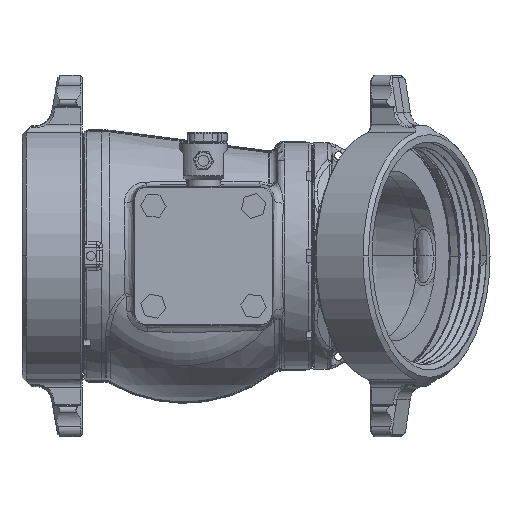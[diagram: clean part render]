
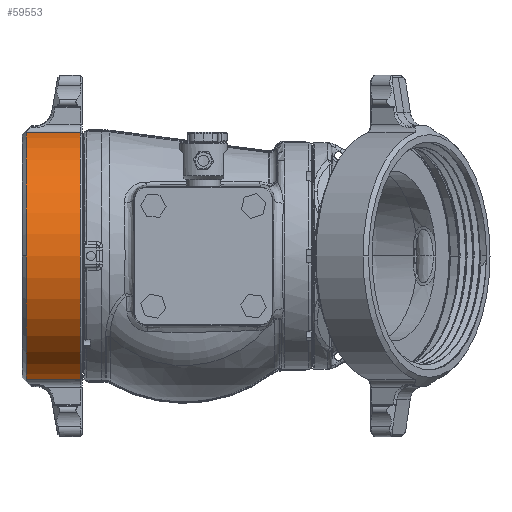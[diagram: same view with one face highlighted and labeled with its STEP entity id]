
A CAD part, front view. The second image highlights one B-rep face of the part: STEP entity #59553.
In plain terms, the highlighted cylindrical face has radius 98.425 mm (diameter 196.85 mm), a partial arc.
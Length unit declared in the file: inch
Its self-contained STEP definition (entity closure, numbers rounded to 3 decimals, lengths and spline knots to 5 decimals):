
#10630 = CARTESIAN_POINT ( 'NONE',  ( -4.21165, -1.13098, -3.81329 ) ) ;
#10631 = CARTESIAN_POINT ( 'NONE',  ( -4.21165, -1.13098, 3.81329 ) ) ;
#10632 = CARTESIAN_POINT ( 'NONE',  ( -5.88715, -1.13098, -3.81329 ) ) ;
#10783 = CARTESIAN_POINT ( 'NONE',  ( -5.88715, -1.13098, 3.81329 ) ) ;
#10784 = CARTESIAN_POINT ( 'NONE',  ( -5.88715, -4.31719, 0. ) ) ;
#16836 = EDGE_CURVE ( 'NONE', #25088, #25087, #42514, .T. ) ;
#19959 = AXIS2_PLACEMENT_3D ( 'NONE', #43791, #43792, #43793 ) ;
#21014 = ORIENTED_EDGE ( 'NONE', *, *, #36142, .T. ) ;
#21020 = ORIENTED_EDGE ( 'NONE', *, *, #36146, .T. ) ;
#21028 = ORIENTED_EDGE ( 'NONE', *, *, #36148, .F. ) ;
#21033 = ORIENTED_EDGE ( 'NONE', *, *, #16836, .F. ) ;
#21042 = ORIENTED_EDGE ( 'NONE', *, *, #36150, .F. ) ;
#23306 = AXIS2_PLACEMENT_3D ( 'NONE', #32925, #32926, #32927 ) ;
#23308 = AXIS2_PLACEMENT_3D ( 'NONE', #32935, #32936, #32937 ) ;
#24933 = VERTEX_POINT ( 'NONE', #10630 ) ;
#24935 = VERTEX_POINT ( 'NONE', #10631 ) ;
#24937 = VERTEX_POINT ( 'NONE', #10632 ) ;
#25087 = VERTEX_POINT ( 'NONE', #10783 ) ;
#25088 = VERTEX_POINT ( 'NONE', #10784 ) ;
#32925 = CARTESIAN_POINT ( 'NONE',  ( -4.21165, -0.44219, 0. ) ) ;
#32926 = DIRECTION ( 'NONE',  ( -1., 0., 0. ) ) ;
#32927 = DIRECTION ( 'NONE',  ( 0., 0., -1. ) ) ;
#32929 = CARTESIAN_POINT ( 'NONE',  ( -6.01215, -1.13098, 3.81329 ) ) ;
#32930 = DIRECTION ( 'NONE',  ( 1., 0., 0. ) ) ;
#32935 = CARTESIAN_POINT ( 'NONE',  ( -5.88715, -0.44219, 0. ) ) ;
#32936 = DIRECTION ( 'NONE',  ( -1., 0., 0. ) ) ;
#32937 = DIRECTION ( 'NONE',  ( 0., 1., 0. ) ) ;
#36142 = EDGE_CURVE ( 'NONE', #24937, #24933, #47379, .T. ) ;
#36146 = EDGE_CURVE ( 'NONE', #24933, #24935, #47384, .T. ) ;
#36148 = EDGE_CURVE ( 'NONE', #25087, #24935, #47387, .T. ) ;
#36150 = EDGE_CURVE ( 'NONE', #24937, #25088, #47380, .T. ) ;
#41439 = DIRECTION ( 'NONE',  ( 0., 0., -1. ) ) ;
#41444 = DIRECTION ( 'NONE',  ( 1., 0., 0. ) ) ;
#41446 = CARTESIAN_POINT ( 'NONE',  ( -6.01215, -0.44219, 0. ) ) ;
#42514 = CIRCLE ( 'NONE', #19959, 3.875 ) ;
#43791 = CARTESIAN_POINT ( 'NONE',  ( -5.88715, -0.44219, 0. ) ) ;
#43792 = DIRECTION ( 'NONE',  ( -1., 0., 0. ) ) ;
#43793 = DIRECTION ( 'NONE',  ( 0., 1., 0. ) ) ;
#47379 = LINE ( 'NONE', #51176, #47381 ) ;
#47380 = CIRCLE ( 'NONE', #23308, 3.875 ) ;
#47381 = VECTOR ( 'NONE', #51192, 39.37008 ) ;
#47384 = CIRCLE ( 'NONE', #23306, 3.875 ) ;
#47387 = LINE ( 'NONE', #32929, #47388 ) ;
#47388 = VECTOR ( 'NONE', #32930, 39.37008 ) ;
#51176 = CARTESIAN_POINT ( 'NONE',  ( -6.01215, -1.13098, -3.81329 ) ) ;
#51192 = DIRECTION ( 'NONE',  ( 1., 0., 0. ) ) ;
#51880 = EDGE_LOOP ( 'NONE', ( #21014, #21020, #21028, #21033, #21042 ) ) ;
#54119 = FACE_OUTER_BOUND ( 'NONE', #51880, .T. ) ;
#54123 = CYLINDRICAL_SURFACE ( 'NONE', #54882, 3.875 ) ;
#54882 = AXIS2_PLACEMENT_3D ( 'NONE', #41446, #41444, #41439 ) ;
#59553 = ADVANCED_FACE ( 'NONE', ( #54119 ), #54123, .T. ) ;
